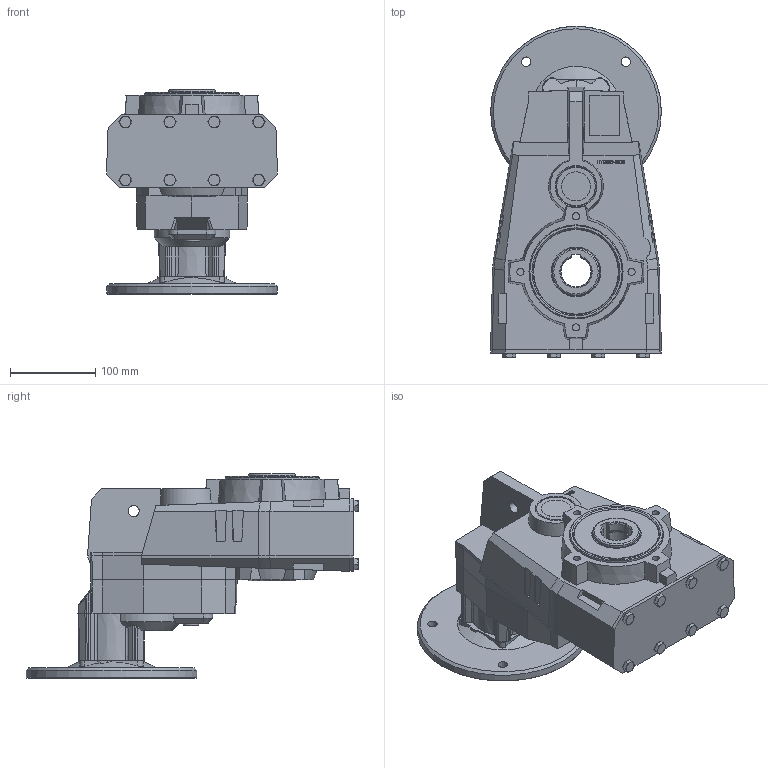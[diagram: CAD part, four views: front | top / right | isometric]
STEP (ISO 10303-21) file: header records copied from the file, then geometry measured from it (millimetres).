
FILE_DESCRIPTION( ( 'Unknown' ), '1' );
FILE_NAME( 'E:/services/configuratordownloads/customers/HYDROMEC/FLACH/download/EF5A825ED0E8EBDB37B1AADFB076E93C/STEP/EF5A825ED0E8EBDB37B1AADFB076E93C.3d.stp', 'Unknown', ( 'Unknown' ), ( 'Unknown' ), 'PSStep 10.1', 'Unknown', ' ' );
FILE_SCHEMA( ( 'AUTOMOTIVE_DESIGN { 1 0 10303 214 1 1 1 1 }' ) );
Length unit declared in the file: millimetre
Products named in the file (10): F508800_ST
Bounding box: 200 x 388.48 x 239 mm (x, y, z)
Volume: 5683537.6 mm3; surface area: 358449.6 mm2
Topology: 10 solids, 41 shells, 935 faces, 2233 edges, 1438 vertices
Faces by surface type: plane 595, cone 143, cylinder 139, torus 37, bspline 11, extrusion 10
Full cylindrical faces by diameter (mm): 6 x1, 6.647 x40, 8 x8, 8.376 x8, 9 x8, 11 x4, 11.6 x8, 13 x9, 13.5 x1, 18 x1, 19 x1, 21 x1, 34 x1, 35 x2, 47 x2, 55 x2, 110 x1, 130 x1
Entity records: 34413 total; most frequent: CARTESIAN_POINT 6537, DIRECTION 4072, ORIENTED_EDGE 3934, EDGE_CURVE 1967, AXIS2_PLACEMENT_3D 1527, VERTEX_POINT 1368, EDGE_LOOP 1219, FACE_OUTER_BOUND 1073
